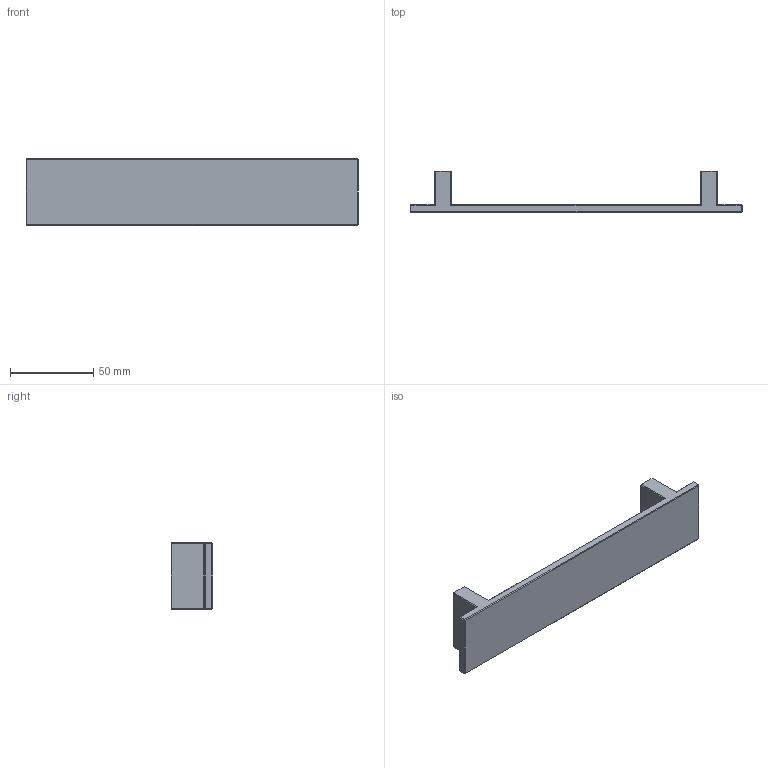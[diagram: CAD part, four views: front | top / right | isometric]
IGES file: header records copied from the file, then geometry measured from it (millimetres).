
Start section: Data from Parasolid IGES Translator 15.0.47, Copyright(c) 2006 Siemens P LM Software. All Rights Reserved.
Global section: file name: 9118995.igs; native system:  By UGS Corp.; preprocessor: XPlus GENERIC/IGES 3.0; author: Noname; organization: Noname; date: 20140122.172459; units: millimetre
Bounding box: 200 x 25 x 40 mm (x, y, z)
Surface area: 22283.9 mm2 (no closed solid volume)
Topology: 0 solids, 0 shells, 54 faces, 268 edges, 266 vertices
Faces by surface type: extrusion 52, revolution 2
